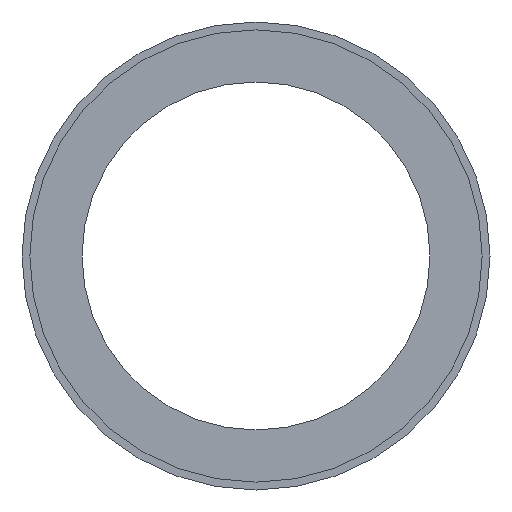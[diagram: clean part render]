
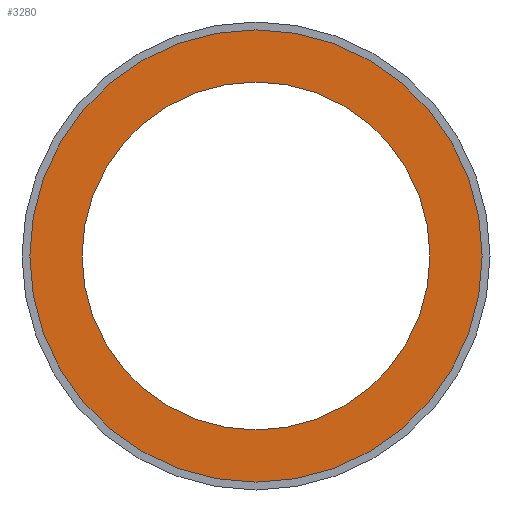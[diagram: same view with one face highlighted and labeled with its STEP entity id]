
A CAD part, front view. The second image highlights one B-rep face of the part: STEP entity #3280.
In plain terms, the highlighted planar face has unit normal (0, -1, 0).
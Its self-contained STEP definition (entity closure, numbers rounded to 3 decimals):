
#20 = CARTESIAN_POINT ( 'NONE',  ( 0., -32., 100. ) ) ;
#386 = CARTESIAN_POINT ( 'NONE',  ( 0., -32., 0. ) ) ;
#476 = CARTESIAN_POINT ( 'NONE',  ( 0., -32., 100. ) ) ;
#714 = VERTEX_POINT ( 'NONE', #5012 ) ;
#873 = ORIENTED_EDGE ( 'NONE', *, *, #5882, .F. ) ;
#1003 = PLANE ( 'NONE',  #4684 ) ;
#1483 = CARTESIAN_POINT ( 'NONE',  ( 0., -32., -130. ) ) ;
#1526 = CIRCLE ( 'NONE', #6494, 100. ) ;
#1905 = ORIENTED_EDGE ( 'NONE', *, *, #4710, .F. ) ;
#1913 = ORIENTED_EDGE ( 'NONE', *, *, #3722, .T. ) ;
#1934 = DIRECTION ( 'NONE',  ( 0., 0., 1. ) ) ;
#2265 = DIRECTION ( 'NONE',  ( 0., 0., -1. ) ) ;
#2294 = EDGE_LOOP ( 'NONE', ( #1913, #2497 ) ) ;
#2432 = CARTESIAN_POINT ( 'NONE',  ( 0., -32., 0. ) ) ;
#2497 = ORIENTED_EDGE ( 'NONE', *, *, #5135, .T. ) ;
#2620 = CIRCLE ( 'NONE', #5890, 100. ) ;
#3280 = ADVANCED_FACE ( 'NONE', ( #3304, #6502 ), #1003, .F. ) ;
#3304 = FACE_BOUND ( 'NONE', #5834, .T. ) ;
#3404 = CARTESIAN_POINT ( 'NONE',  ( 0., -32., -100. ) ) ;
#3436 = DIRECTION ( 'NONE',  ( 0., 0., -1. ) ) ;
#3671 = AXIS2_PLACEMENT_3D ( 'NONE', #6027, #4508, #5450 ) ;
#3722 = EDGE_CURVE ( 'NONE', #6578, #714, #4824, .T. ) ;
#4508 = DIRECTION ( 'NONE',  ( 0., -1., 0. ) ) ;
#4537 = DIRECTION ( 'NONE',  ( 0., -1., 0. ) ) ;
#4684 = AXIS2_PLACEMENT_3D ( 'NONE', #476, #6612, #1934 ) ;
#4710 = EDGE_CURVE ( 'NONE', #6425, #6516, #1526, .T. ) ;
#4824 = CIRCLE ( 'NONE', #3671, 130. ) ;
#4952 = DIRECTION ( 'NONE',  ( 0., 0., -1. ) ) ;
#5012 = CARTESIAN_POINT ( 'NONE',  ( 0., -32., 130. ) ) ;
#5135 = EDGE_CURVE ( 'NONE', #714, #6578, #6484, .T. ) ;
#5450 = DIRECTION ( 'NONE',  ( 0., 0., -1. ) ) ;
#5602 = AXIS2_PLACEMENT_3D ( 'NONE', #386, #4537, #3436 ) ;
#5757 = DIRECTION ( 'NONE',  ( 0., -1., 0. ) ) ;
#5834 = EDGE_LOOP ( 'NONE', ( #1905, #873 ) ) ;
#5882 = EDGE_CURVE ( 'NONE', #6516, #6425, #2620, .T. ) ;
#5890 = AXIS2_PLACEMENT_3D ( 'NONE', #2432, #6552, #4952 ) ;
#6027 = CARTESIAN_POINT ( 'NONE',  ( 0., -32., 0. ) ) ;
#6322 = CARTESIAN_POINT ( 'NONE',  ( 0., -32., 0. ) ) ;
#6425 = VERTEX_POINT ( 'NONE', #3404 ) ;
#6484 = CIRCLE ( 'NONE', #5602, 130. ) ;
#6494 = AXIS2_PLACEMENT_3D ( 'NONE', #6322, #5757, #2265 ) ;
#6502 = FACE_OUTER_BOUND ( 'NONE', #2294, .T. ) ;
#6516 = VERTEX_POINT ( 'NONE', #20 ) ;
#6552 = DIRECTION ( 'NONE',  ( 0., -1., 0. ) ) ;
#6578 = VERTEX_POINT ( 'NONE', #1483 ) ;
#6612 = DIRECTION ( 'NONE',  ( 0., 1., 0. ) ) ;
